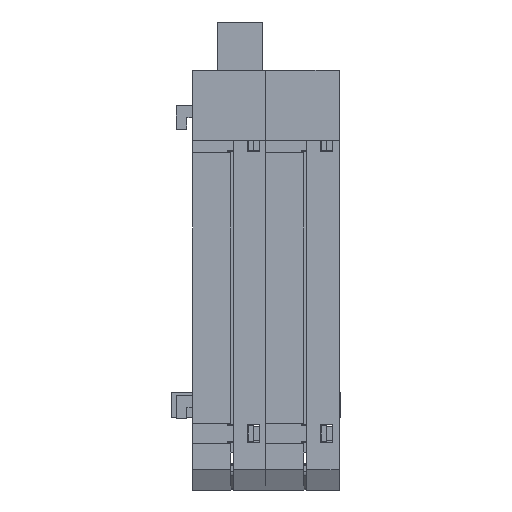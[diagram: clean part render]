
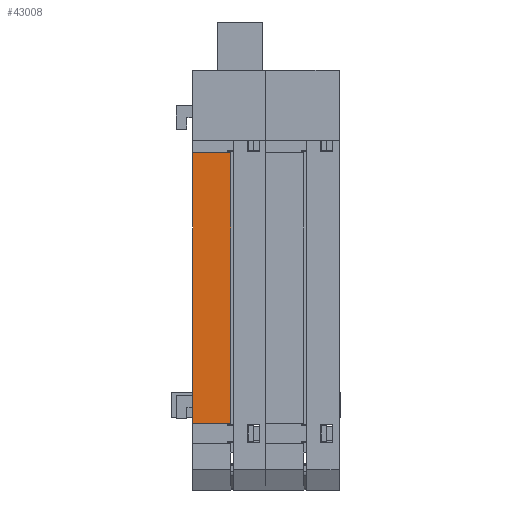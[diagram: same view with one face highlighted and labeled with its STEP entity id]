
A CAD part, front view. The second image highlights one B-rep face of the part: STEP entity #43008.
In plain terms, the highlighted planar face has unit normal (0, -1, 0).
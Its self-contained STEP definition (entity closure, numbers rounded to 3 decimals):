
#2740 = FACE_OUTER_BOUND ( 'NONE', #29158, .T. ) ;
#3960 = CARTESIAN_POINT ( 'NONE',  ( 6.5, 0., 0. ) ) ;
#4563 = ORIENTED_EDGE ( 'NONE', *, *, #39847, .F. ) ;
#5389 = EDGE_CURVE ( 'NONE', #14471, #16308, #30388, .T. ) ;
#5910 = DIRECTION ( 'NONE',  ( 0., 0., -1. ) ) ;
#6229 = DIRECTION ( 'NONE',  ( 1., 0., 0. ) ) ;
#6414 = VERTEX_POINT ( 'NONE', #27910 ) ;
#7638 = DIRECTION ( 'NONE',  ( 0., 0., -1. ) ) ;
#8607 = LINE ( 'NONE', #3960, #17186 ) ;
#10079 = CARTESIAN_POINT ( 'NONE',  ( 0., 0., -11.141 ) ) ;
#12794 = EDGE_CURVE ( 'NONE', #6414, #16308, #8607, .T. ) ;
#13528 = DIRECTION ( 'NONE',  ( 0., 1., 0. ) ) ;
#14471 = VERTEX_POINT ( 'NONE', #40460 ) ;
#15266 = CARTESIAN_POINT ( 'NONE',  ( 6.5, 0., -57.349 ) ) ;
#15409 = EDGE_CURVE ( 'NONE', #17597, #14471, #46898, .T. ) ;
#15998 = ORIENTED_EDGE ( 'NONE', *, *, #15409, .T. ) ;
#16308 = VERTEX_POINT ( 'NONE', #15266 ) ;
#16326 = LINE ( 'NONE', #10079, #34653 ) ;
#17123 = CARTESIAN_POINT ( 'NONE',  ( 0., 0., -57.349 ) ) ;
#17186 = VECTOR ( 'NONE', #7638, 1000. ) ;
#17597 = VERTEX_POINT ( 'NONE', #26186 ) ;
#20672 = CARTESIAN_POINT ( 'NONE',  ( 0., 0., 0. ) ) ;
#26186 = CARTESIAN_POINT ( 'NONE',  ( 0., 0., -11.141 ) ) ;
#27910 = CARTESIAN_POINT ( 'NONE',  ( 6.5, 0., -11.141 ) ) ;
#28089 = PLANE ( 'NONE',  #45805 ) ;
#29158 = EDGE_LOOP ( 'NONE', ( #15998, #36983, #40673, #4563 ) ) ;
#30388 = LINE ( 'NONE', #17123, #40130 ) ;
#34653 = VECTOR ( 'NONE', #39389, 1000. ) ;
#35431 = CARTESIAN_POINT ( 'NONE',  ( 7., 0., 0. ) ) ;
#36983 = ORIENTED_EDGE ( 'NONE', *, *, #5389, .T. ) ;
#37139 = VECTOR ( 'NONE', #5910, 1000. ) ;
#39151 = DIRECTION ( 'NONE',  ( 0., 0., 1. ) ) ;
#39389 = DIRECTION ( 'NONE',  ( 1., 0., 0. ) ) ;
#39847 = EDGE_CURVE ( 'NONE', #17597, #6414, #16326, .T. ) ;
#40130 = VECTOR ( 'NONE', #6229, 1000. ) ;
#40460 = CARTESIAN_POINT ( 'NONE',  ( 0., 0., -57.349 ) ) ;
#40673 = ORIENTED_EDGE ( 'NONE', *, *, #12794, .F. ) ;
#43008 = ADVANCED_FACE ( 'NONE', ( #2740 ), #28089, .F. ) ;
#45805 = AXIS2_PLACEMENT_3D ( 'NONE', #35431, #13528, #39151 ) ;
#46898 = LINE ( 'NONE', #20672, #37139 ) ;
